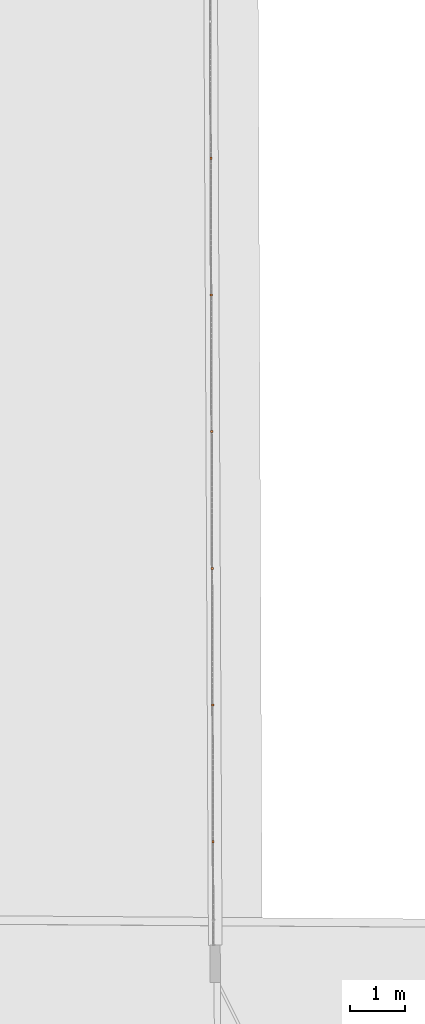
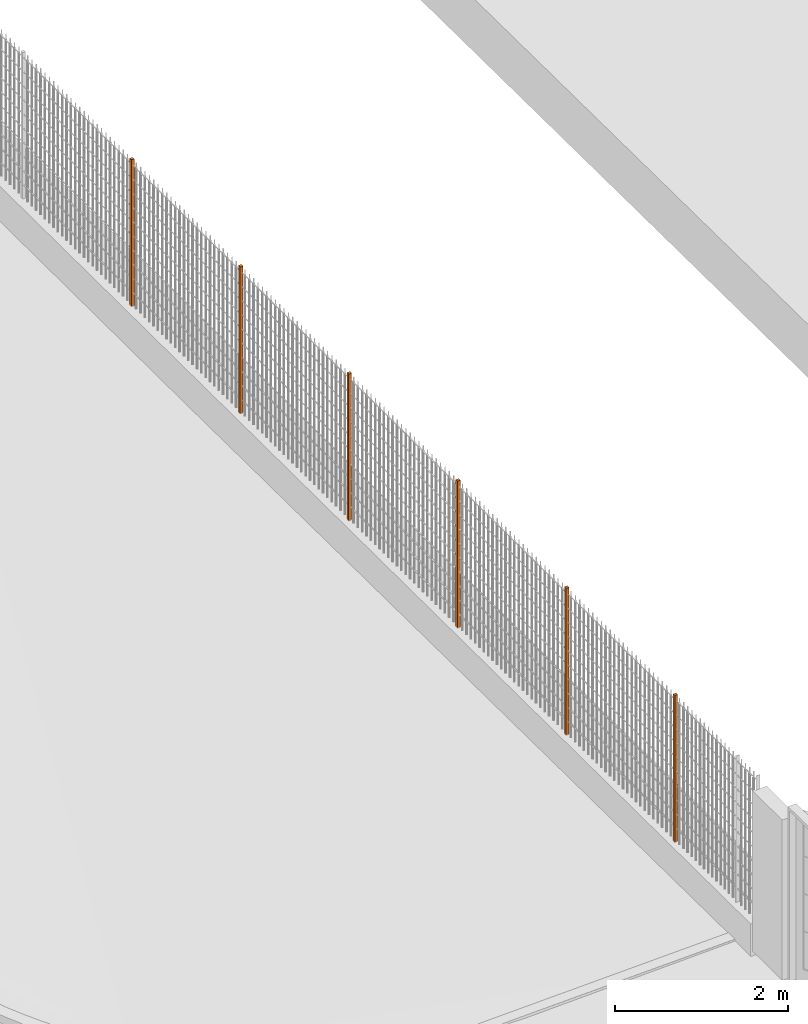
# One storey, part 12 of 1809: 6 proxies, 1 element without a shape of its own.
"""IFC2X3 building model written with IfcOpenShell, lengths in millimetres."""

from ifc_helpers import new_model, entity, si_unit, converted_unit, derived_unit, money_unit, direction, frame, origin_with_axes, place, context, subcontext, project, spatial, faceted_brep, source, transform, mapped, material, type_object, element, aggregate, save


model = new_model("IFC2X3")

# Units and contexts
model_context = context("Model", 3, precision=0.01, world=origin_with_axes(), true_north=direction((0.0, 1.0)))
body_context = subcontext(model_context, "Body", "Model", "MODEL_VIEW")
ifc_project = project(units=[si_unit("LENGTHUNIT", "METRE", prefix="MILLI"), si_unit("AREAUNIT", "SQUARE_METRE"), si_unit("VOLUMEUNIT", "CUBIC_METRE"), converted_unit("PLANEANGLEUNIT", "DEGREE", entity("IfcPlaneAngleMeasure", 0.0174532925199), si_unit("PLANEANGLEUNIT", "RADIAN"), dimensions=[0, 0, 0, 0, 0, 0, 0]), si_unit("SOLIDANGLEUNIT", "STERADIAN"), money_unit("EUR"), converted_unit("TIMEUNIT", "Year", entity("IfcTimeMeasure", 31556926.0), si_unit("TIMEUNIT", "SECOND"), dimensions=[0, 0, 1, 0, 0, 0, 0]), si_unit("MASSUNIT", "GRAM", prefix="KILO"), si_unit("THERMODYNAMICTEMPERATUREUNIT", "DEGREE_CELSIUS"), si_unit("LUMINOUSINTENSITYUNIT", "LUMEN"), si_unit("ENERGYUNIT", "JOULE", prefix="MEGA"), derived_unit("THERMALCONDUCTANCEUNIT", [(si_unit("POWERUNIT", "WATT"), 1), (si_unit("LENGTHUNIT", "METRE"), -1), (si_unit("THERMODYNAMICTEMPERATUREUNIT", "KELVIN"), -1)]), derived_unit("SPECIFICHEATCAPACITYUNIT", [(si_unit("ENERGYUNIT", "JOULE"), 1), (si_unit("MASSUNIT", "GRAM", prefix="KILO"), -1), (si_unit("THERMODYNAMICTEMPERATUREUNIT", "KELVIN"), -1)]), derived_unit("MASSDENSITYUNIT", [(si_unit("MASSUNIT", "GRAM", prefix="KILO"), 1), (si_unit("VOLUMEUNIT", "CUBIC_METRE"), -1)])], contexts=[model_context])

# Site, building, storey
site_placement = place(None, origin_with_axes())
site = spatial("IfcSite", under=ifc_project, at=site_placement, Name="Politse- ja Piirivalveameti ning Päästeameti ühishoone", CompositionType="ELEMENT")
building_placement = place(site_placement, origin_with_axes())
building = spatial("IfcBuilding", under=site, at=building_placement, Name="Politse- ja Piirivalveameti ning Päästeameti ühishoone", CompositionType="ELEMENT")
storey_placement = place(building_placement, origin_with_axes())
storey = spatial("IfcBuildingStorey", under=building, at=storey_placement, Name="Esimene korrus", CompositionType="ELEMENT", Elevation=0.0)

# Proxies
building_element_proxy_type_1 = type_object("IfcBuildingElementProxyType", Name="Railing Type", PredefinedType="NOTDEFINED")
proxy_1_placement = place(storey_placement, frame((89104.1814532, -600.085881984, 164.131942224), z_axis=(0.0, 0.0, 1.0), x_axis=(1.0, 0.0, 0.0)))
proxy_1 = element("IfcBuildingElementProxy", 1, at=proxy_1_placement, inside=storey, type_object=building_element_proxy_type_1, Name="PIIRDEAED")
ifc_material = material(Name="ET-03_Raud")
building_element_proxy_type_2 = type_object("IfcBuildingElementProxyType", Name="IfcBuildingElementProxy", PredefinedType="NOTDEFINED")
shared_shape = source(origin_with_axes(), body_context, "Body", "Brep", [
    faceted_brep([(20.0, 20.0, 0.0), (-20.0, 20.0, 0.0), (-20.0, 20.0, 2080.0), (20.0, 20.0, 2080.0), (20.0, -20.0, 0.0), (-20.0, -20.0, 0.0), (-20.0, -20.0, 2080.0), (20.0, -20.0, 2080.0)], [[[0, 1, 2, 3]], [[0, 4, 5, 1]], [[1, 5, 6, 2]], [[3, 2, 6, 7]], [[4, 0, 3, 7]], [[5, 4, 7, 6]]]),
])
proxy_2_placement = place(proxy_1_placement, frame((139.148733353, -7135.018235, 0.0), z_axis=(0.0, 0.0, 1.0), x_axis=(1.0, 0.0, 0.0)))
proxy_2 = element("IfcBuildingElementProxy", 2, at=proxy_2_placement, type_object=building_element_proxy_type_2, material=ifc_material, Name="SISEPOST - 001", context=body_context, shape_type="MappedRepresentation", body=[
    mapped(shared_shape, transform((0.0, 0.0, 0.0), x_axis=(-0.999994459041, -0.00332894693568, 0.0), y_axis=(0.00332894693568, -0.999994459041, 0.0), z_axis=(0.0, 0.0, 1.0))),
])
proxy_3_placement = place(proxy_1_placement, frame((147.471100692, -9635.0043826, 0.0), z_axis=(0.0, 0.0, 1.0), x_axis=(1.0, 0.0, 0.0)))
proxy_3 = element("IfcBuildingElementProxy", 3, at=proxy_3_placement, type_object=building_element_proxy_type_2, material=ifc_material, Name="SISEPOST - 001", context=body_context, shape_type="MappedRepresentation", body=[
    mapped(shared_shape, transform((0.0, 0.0, 0.0), x_axis=(-0.999994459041, -0.00332894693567, 0.0), y_axis=(0.00332894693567, -0.999994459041, 0.0), z_axis=(0.0, 0.0, 1.0))),
])
proxy_4_placement = place(proxy_1_placement, frame((155.793468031, -12134.9905302, 0.0), z_axis=(0.0, 0.0, 1.0), x_axis=(1.0, 0.0, 0.0)))
proxy_4 = element("IfcBuildingElementProxy", 4, at=proxy_4_placement, type_object=building_element_proxy_type_2, material=ifc_material, Name="SISEPOST - 001", context=body_context, shape_type="MappedRepresentation", body=[
    mapped(shared_shape, transform((0.0, 0.0, 0.0), x_axis=(-0.999994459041, -0.00332894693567, 0.0), y_axis=(0.00332894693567, -0.999994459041, 0.0), z_axis=(0.0, 0.0, 1.0))),
])
proxy_5_placement = place(proxy_1_placement, frame((164.11583537, -14634.9766778, 0.0), z_axis=(0.0, 0.0, 1.0), x_axis=(1.0, 0.0, 0.0)))
proxy_5 = element("IfcBuildingElementProxy", 5, at=proxy_5_placement, type_object=building_element_proxy_type_2, material=ifc_material, Name="SISEPOST - 001", context=body_context, shape_type="MappedRepresentation", body=[
    mapped(shared_shape, transform((0.0, 0.0, 0.0), x_axis=(-0.999994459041, -0.00332894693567, 0.0), y_axis=(0.00332894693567, -0.999994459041, 0.0), z_axis=(0.0, 0.0, 1.0))),
])
proxy_6_placement = place(proxy_1_placement, frame((172.438202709, -17134.9628254, 0.0), z_axis=(0.0, 0.0, 1.0), x_axis=(1.0, 0.0, 0.0)))
proxy_6 = element("IfcBuildingElementProxy", 6, at=proxy_6_placement, type_object=building_element_proxy_type_2, material=ifc_material, Name="SISEPOST - 001", context=body_context, shape_type="MappedRepresentation", body=[
    mapped(shared_shape, transform((0.0, 0.0, 0.0), x_axis=(-0.999994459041, -0.0033289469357, 0.0), y_axis=(0.0033289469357, -0.999994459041, 0.0), z_axis=(0.0, 0.0, 1.0))),
])
proxy_7_placement = place(proxy_1_placement, frame((180.760570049, -19634.948973, 0.0), z_axis=(0.0, 0.0, 1.0), x_axis=(1.0, 0.0, 0.0)))
proxy_7 = element("IfcBuildingElementProxy", 7, at=proxy_7_placement, type_object=building_element_proxy_type_2, material=ifc_material, Name="SISEPOST - 001", context=body_context, shape_type="MappedRepresentation", body=[
    mapped(shared_shape, transform((0.0, 0.0, 0.0), x_axis=(-0.999994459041, -0.00332894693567, 0.0), y_axis=(0.00332894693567, -0.999994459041, 0.0), z_axis=(0.0, 0.0, 1.0))),
])
aggregate(proxy_1, [proxy_2, proxy_3, proxy_4, proxy_5, proxy_6, proxy_7])

save(model, "model.ifc")
